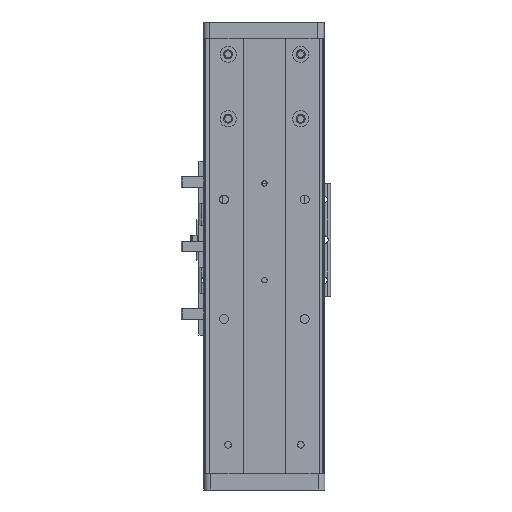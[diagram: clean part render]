
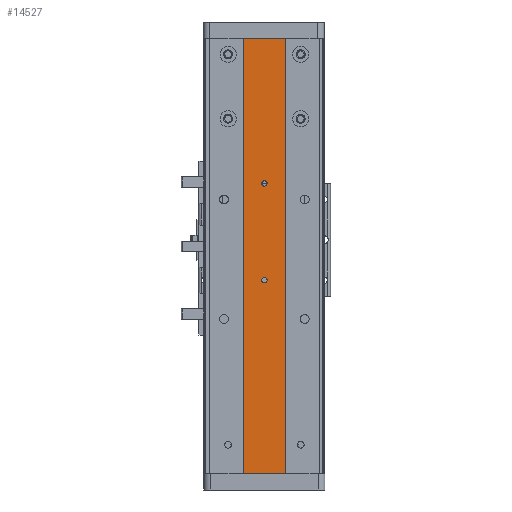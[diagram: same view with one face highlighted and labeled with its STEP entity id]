
A CAD part, front view. The second image highlights one B-rep face of the part: STEP entity #14527.
In plain terms, the highlighted planar face has unit normal (0, -1, 0).
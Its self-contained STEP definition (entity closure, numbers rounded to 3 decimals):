
#124 = CARTESIAN_POINT ( 'NONE',  ( -9.442, -17.52, 0. ) ) ;
#367 = AXIS2_PLACEMENT_3D ( 'NONE', #13212, #3195, #14884 ) ;
#540 = CIRCLE ( 'NONE', #19311, 1.65 ) ;
#808 = CIRCLE ( 'NONE', #367, 1.65 ) ;
#915 = FACE_BOUND ( 'NONE', #18894, .T. ) ;
#1641 = AXIS2_PLACEMENT_3D ( 'NONE', #19523, #9523, #21218 ) ;
#1703 = DIRECTION ( 'NONE',  ( 1., 0., 0. ) ) ;
#2805 = EDGE_CURVE ( 'NONE', #6009, #6186, #11307, .T. ) ;
#2835 = EDGE_LOOP ( 'NONE', ( #21128, #15359, #13530, #21150 ) ) ;
#3086 = CARTESIAN_POINT ( 'NONE',  ( 1.908, -17.52, 120. ) ) ;
#3195 = DIRECTION ( 'NONE',  ( 0., 1., 0. ) ) ;
#3561 = CARTESIAN_POINT ( 'NONE',  ( 16.558, -17.52, 270. ) ) ;
#3566 = EDGE_CURVE ( 'NONE', #10748, #19618, #11259, .T. ) ;
#4263 = AXIS2_PLACEMENT_3D ( 'NONE', #15098, #5106, #16812 ) ;
#4593 = DIRECTION ( 'NONE',  ( 0., 0., -1. ) ) ;
#5106 = DIRECTION ( 'NONE',  ( 0., 1., 0. ) ) ;
#5406 = CARTESIAN_POINT ( 'NONE',  ( 3.558, -17.52, 180. ) ) ;
#5991 = VECTOR ( 'NONE', #4593, 1000. ) ;
#6009 = VERTEX_POINT ( 'NONE', #124 ) ;
#6186 = VERTEX_POINT ( 'NONE', #7298 ) ;
#6503 = LINE ( 'NONE', #16318, #5991 ) ;
#6702 = CARTESIAN_POINT ( 'NONE',  ( 3.558, -17.52, 180. ) ) ;
#6804 = VECTOR ( 'NONE', #1703, 1000. ) ;
#6856 = VECTOR ( 'NONE', #19042, 1000. ) ;
#6982 = ORIENTED_EDGE ( 'NONE', *, *, #11665, .T. ) ;
#7084 = DIRECTION ( 'NONE',  ( 0., 0., 1. ) ) ;
#7298 = CARTESIAN_POINT ( 'NONE',  ( 16.558, -17.52, 0. ) ) ;
#7328 = CARTESIAN_POINT ( 'NONE',  ( 0., -17.52, 0. ) ) ;
#7818 = PLANE ( 'NONE',  #1641 ) ;
#8412 = DIRECTION ( 'NONE',  ( 0., 0., 1. ) ) ;
#8505 = DIRECTION ( 'NONE',  ( 0., 0., -1. ) ) ;
#9337 = FACE_OUTER_BOUND ( 'NONE', #2835, .T. ) ;
#9523 = DIRECTION ( 'NONE',  ( 0., 1., 0. ) ) ;
#9606 = ORIENTED_EDGE ( 'NONE', *, *, #13089, .T. ) ;
#9692 = CARTESIAN_POINT ( 'NONE',  ( 5.208, -17.52, 120. ) ) ;
#9717 = ORIENTED_EDGE ( 'NONE', *, *, #19474, .T. ) ;
#9843 = FACE_BOUND ( 'NONE', #19148, .T. ) ;
#9852 = VERTEX_POINT ( 'NONE', #18423 ) ;
#9857 = EDGE_CURVE ( 'NONE', #10327, #15605, #11946, .T. ) ;
#9949 = CARTESIAN_POINT ( 'NONE',  ( 1.908, -17.52, 180. ) ) ;
#10327 = VERTEX_POINT ( 'NONE', #9692 ) ;
#10748 = VERTEX_POINT ( 'NONE', #12460 ) ;
#11259 = LINE ( 'NONE', #18432, #6804 ) ;
#11307 = LINE ( 'NONE', #7328, #6856 ) ;
#11553 = LINE ( 'NONE', #18504, #20458 ) ;
#11665 = EDGE_CURVE ( 'NONE', #16715, #9852, #540, .T. ) ;
#11946 = CIRCLE ( 'NONE', #4263, 1.65 ) ;
#12358 = ORIENTED_EDGE ( 'NONE', *, *, #9857, .T. ) ;
#12414 = EDGE_CURVE ( 'NONE', #19618, #6186, #6503, .T. ) ;
#12460 = CARTESIAN_POINT ( 'NONE',  ( -9.442, -17.52, 270. ) ) ;
#13002 = AXIS2_PLACEMENT_3D ( 'NONE', #6702, #18426, #8412 ) ;
#13012 = CIRCLE ( 'NONE', #13002, 1.65 ) ;
#13089 = EDGE_CURVE ( 'NONE', #9852, #16715, #13012, .T. ) ;
#13212 = CARTESIAN_POINT ( 'NONE',  ( 3.558, -17.52, 120. ) ) ;
#13530 = ORIENTED_EDGE ( 'NONE', *, *, #3566, .F. ) ;
#14527 = ADVANCED_FACE ( 'NONE', ( #915, #9843, #9337 ), #7818, .F. ) ;
#14884 = DIRECTION ( 'NONE',  ( 0., 0., 1. ) ) ;
#15098 = CARTESIAN_POINT ( 'NONE',  ( 3.558, -17.52, 120. ) ) ;
#15359 = ORIENTED_EDGE ( 'NONE', *, *, #12414, .F. ) ;
#15605 = VERTEX_POINT ( 'NONE', #3086 ) ;
#16318 = CARTESIAN_POINT ( 'NONE',  ( 16.558, -17.52, 270. ) ) ;
#16715 = VERTEX_POINT ( 'NONE', #9949 ) ;
#16812 = DIRECTION ( 'NONE',  ( 0., 0., 1. ) ) ;
#17113 = DIRECTION ( 'NONE',  ( 0., 1., 0. ) ) ;
#18423 = CARTESIAN_POINT ( 'NONE',  ( 5.208, -17.52, 180. ) ) ;
#18426 = DIRECTION ( 'NONE',  ( 0., 1., 0. ) ) ;
#18432 = CARTESIAN_POINT ( 'NONE',  ( 0., -17.52, 270. ) ) ;
#18504 = CARTESIAN_POINT ( 'NONE',  ( -9.442, -17.52, 270. ) ) ;
#18894 = EDGE_LOOP ( 'NONE', ( #9717, #12358 ) ) ;
#19042 = DIRECTION ( 'NONE',  ( 1., 0., 0. ) ) ;
#19148 = EDGE_LOOP ( 'NONE', ( #6982, #9606 ) ) ;
#19311 = AXIS2_PLACEMENT_3D ( 'NONE', #5406, #17113, #7084 ) ;
#19474 = EDGE_CURVE ( 'NONE', #15605, #10327, #808, .T. ) ;
#19523 = CARTESIAN_POINT ( 'NONE',  ( 0., -17.52, 270. ) ) ;
#19542 = EDGE_CURVE ( 'NONE', #10748, #6009, #11553, .T. ) ;
#19618 = VERTEX_POINT ( 'NONE', #3561 ) ;
#20458 = VECTOR ( 'NONE', #8505, 1000. ) ;
#21128 = ORIENTED_EDGE ( 'NONE', *, *, #2805, .T. ) ;
#21150 = ORIENTED_EDGE ( 'NONE', *, *, #19542, .T. ) ;
#21218 = DIRECTION ( 'NONE',  ( 0., 0., 1. ) ) ;
